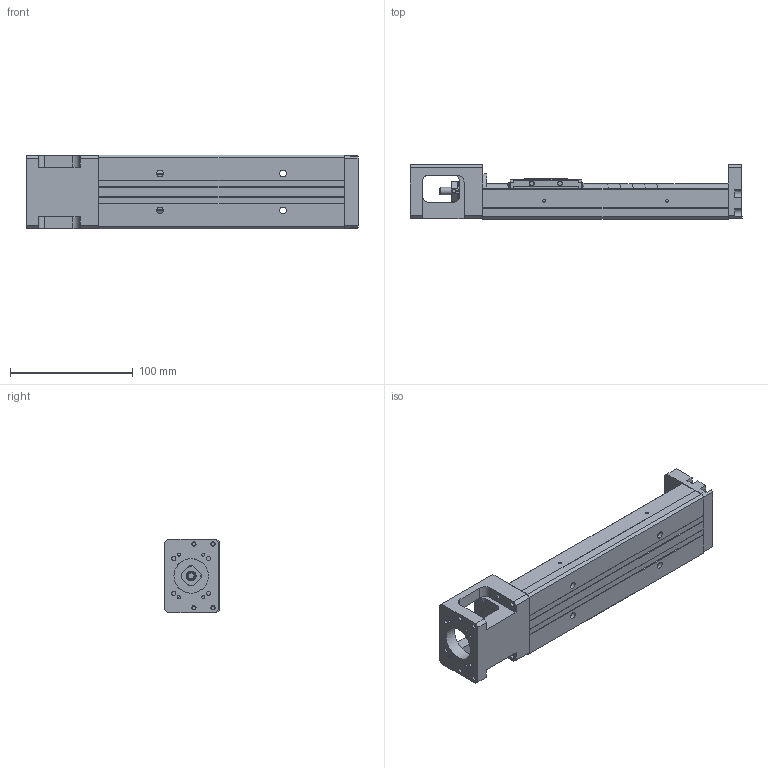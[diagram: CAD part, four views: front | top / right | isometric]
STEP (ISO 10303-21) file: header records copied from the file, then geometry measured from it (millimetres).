
FILE_DESCRIPTION(/* description */ (''),/* implementation_level */ '2;1');
FILE_NAME(/* name */ 'KP33S-200.stp',/* time_stamp */ '2020-06-04T17:44:04+08:00',/* author */ (''),/* organization */ (''),/* preprocessor_version */ 'ST-DEVELOPER v14',/* originating_system */ 'SIEMENS PLM Software NX 8.0',/* authorisation */ '');
FILE_SCHEMA (('AUTOMOTIVE_DESIGN { 1 0 10303 214 3 1 1 1 }'));
Length unit declared in the file: millimetre
Products named in the file (1): model1
Bounding box: 270 x 44.45 x 60 mm (x, y, z)
Volume: 338569.4 mm3; surface area: 96985.7 mm2
Topology: 5 solids, 10 shells, 596 faces, 1528 edges, 1004 vertices
Faces by surface type: plane 350, cylinder 161, bspline 31, cone 22, extrusion 21, torus 9, revolution 2
Full cylindrical faces by diameter (mm): 1.6 x2, 1.65 x4, 2.15 x2, 2.42 x4, 2.45 x4, 2.5 x8, 3.2 x4, 3.3 x4, 3.4 x4, 3.5 x10, 3.969 x1, 4 x4, 4.001 x1, 4.135 x2, 5.5 x4, 6 x5, 7.6 x1, 8 x5, 9.5 x4, 10.72 x3, 11.8 x2, 12 x6, 12.8 x1, 13 x2, 14 x1, 17.38 x3, 21.5 x1, 22 x2, 28 x1
Entity records: 32724 total; most frequent: CARTESIAN_POINT 15940, DIRECTION 2700, ORIENTED_EDGE 2670, EDGE_CURVE 1335, VERTEX_POINT 939, AXIS2_PLACEMENT_3D 937, EDGE_LOOP 830, VECTOR 824
